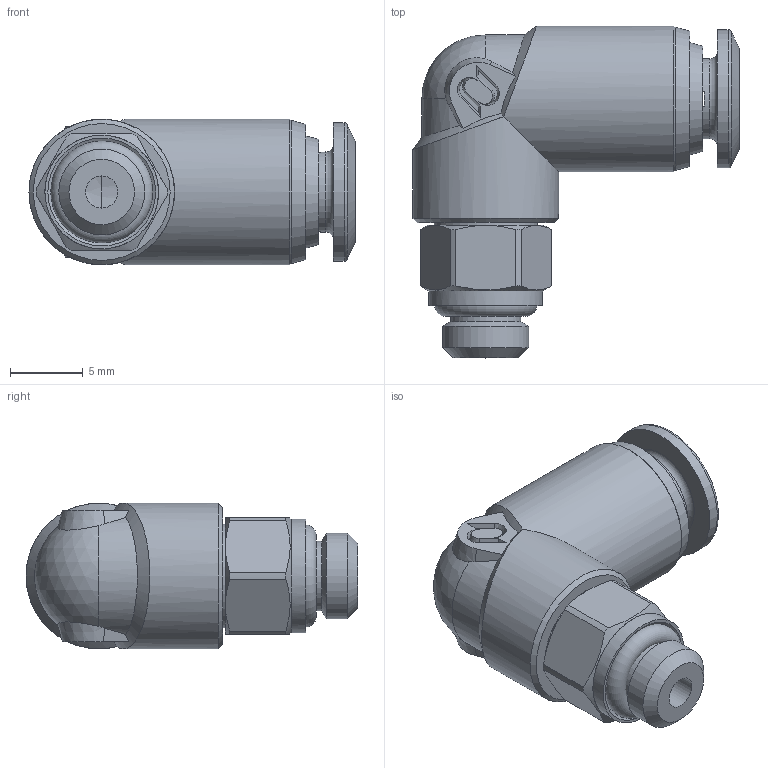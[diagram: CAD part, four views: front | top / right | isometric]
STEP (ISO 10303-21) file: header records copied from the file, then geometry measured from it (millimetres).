
FILE_DESCRIPTION (( 'STEP AP214' ), '1' );
FILE_NAME ('40116V0026.STEP', '2017-02-06T15:13:38', ( 'admin' ), ( '' ), 'SwSTEP 2.0', 'SolidWorks 2016', '' );
FILE_SCHEMA (( 'AUTOMOTIVE_DESIGN' ));
Length unit declared in the file: millimetre
Products named in the file (1): 40116V0026
Bounding box: 22.4 x 22.8 x 10 mm (x, y, z)
Surface area: 1546.4 mm2 (no closed solid volume)
Topology: 0 solids, 7 shells, 95 faces, 274 edges, 186 vertices
Faces by surface type: plane 41, cone 28, cylinder 20, torus 3, bspline 2, sphere 1
Full cylindrical faces by diameter (mm): 2.2 x1, 4.2 x1, 4.8 x1, 5.5 x1, 5.9 x1, 7.1 x1, 7.5 x1, 7.8 x1, 8.3 x1, 9.5 x1, 10 x2
Entity records: 4441 total; most frequent: CARTESIAN_POINT 1129, DIRECTION 438, ORIENTED_EDGE 429, EDGE_CURVE 240, VERTEX_POINT 179, AXIS2_PLACEMENT_3D 177, EDGE_LOOP 133, FACE_OUTER_BOUND 108
